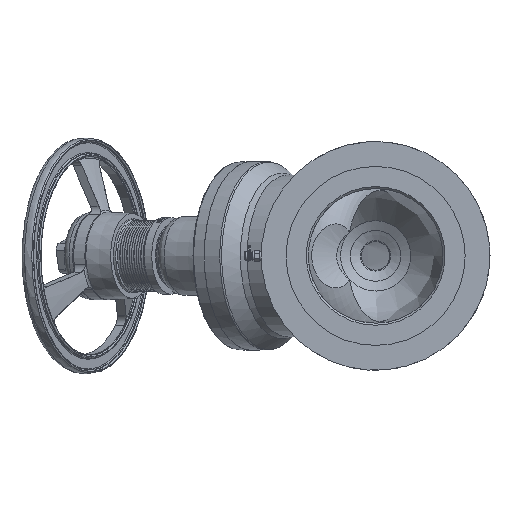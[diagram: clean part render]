
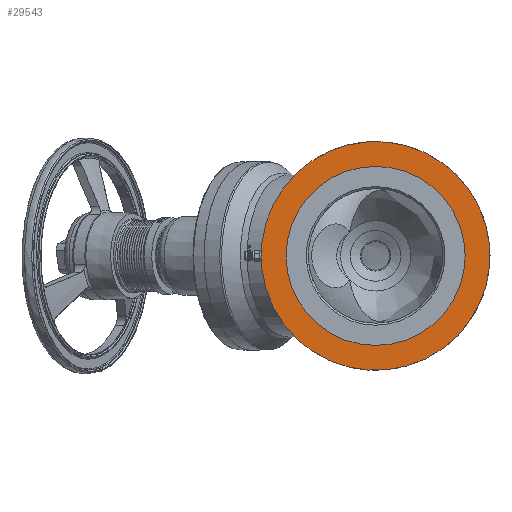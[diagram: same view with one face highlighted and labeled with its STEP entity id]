
A CAD part, left-side view. The second image highlights one B-rep face of the part: STEP entity #29543.
In plain terms, the highlighted planar face has unit normal (-1, 0, 0).
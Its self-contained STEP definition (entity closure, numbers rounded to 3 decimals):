
#20838=CARTESIAN_POINT('',(-597.,168.815,19.968));
#20839=VERTEX_POINT('',#20838);
#20884=CARTESIAN_POINT('',(-597.,170.0,19.968));
#20885=VERTEX_POINT('',#20884);
#20892=CARTESIAN_POINT('',(-597.,168.815,19.968));
#20893=DIRECTION('',(0.0,1.0,0.0));
#20894=VECTOR('',#20893,1.185);
#20895=LINE('',#20892,#20894);
#20896=EDGE_CURVE('',#20839,#20885,#20895,.T.);
#20931=CARTESIAN_POINT('',(-597.,168.795,-20.132));
#20932=VERTEX_POINT('',#20931);
#20941=CARTESIAN_POINT('',(-597.,170.0,-20.132));
#20942=VERTEX_POINT('',#20941);
#20943=CARTESIAN_POINT('',(-597.,168.795,-20.132));
#20944=DIRECTION('',(0.0,1.0,0.0));
#20945=VECTOR('',#20944,1.205);
#20946=LINE('',#20943,#20945);
#20947=EDGE_CURVE('',#20932,#20942,#20946,.T.);
#21590=CARTESIAN_POINT('',(-597.,170.0,19.968));
#21591=DIRECTION('',(0.0,0.0,-1.0));
#21592=VECTOR('',#21591,40.099);
#21593=LINE('',#21590,#21592);
#21594=EDGE_CURVE('',#20885,#20942,#21593,.T.);
#29503=CARTESIAN_POINT('',(-597.,0.,0.0));
#29504=DIRECTION('',(-1.0,0.0,0.0));
#29505=DIRECTION('',(0.0,-1.0,0.0));
#29506=AXIS2_PLACEMENT_3D('',#29503,#29504,#29505);
#29507=CIRCLE('',#29506,169.992);
#29508=EDGE_CURVE('',#20932,#20839,#29507,.T.);
#29521=CARTESIAN_POINT('',(-597.,-151.496,0.0));
#29522=DIRECTION('',(-1.0,0.0,0.0));
#29523=DIRECTION('',(0.0,0.0,1.0));
#29524=AXIS2_PLACEMENT_3D('',#29521,#29522,#29523);
#29525=PLANE('',#29524);
#29526=ORIENTED_EDGE('',*,*,#29508,.T.);
#29527=ORIENTED_EDGE('',*,*,#20896,.T.);
#29528=ORIENTED_EDGE('',*,*,#21594,.T.);
#29529=ORIENTED_EDGE('',*,*,#20947,.F.);
#29530=EDGE_LOOP('',(#29526,#29527,#29528,#29529));
#29531=FACE_OUTER_BOUND('',#29530,.T.);
#29532=CARTESIAN_POINT('',(-597.,-133.0,0.0));
#29533=VERTEX_POINT('',#29532);
#29534=CARTESIAN_POINT('',(-597.,0.,0.0));
#29535=DIRECTION('',(-1.0,0.0,0.0));
#29536=DIRECTION('',(0.0,-1.0,0.0));
#29537=AXIS2_PLACEMENT_3D('',#29534,#29535,#29536);
#29538=CIRCLE('',#29537,133.);
#29539=EDGE_CURVE('',#29533,#29533,#29538,.T.);
#29540=ORIENTED_EDGE('',*,*,#29539,.F.);
#29541=EDGE_LOOP('',(#29540));
#29542=FACE_BOUND('',#29541,.T.);
#29543=ADVANCED_FACE('',(#29531,#29542),#29525,.T.);
